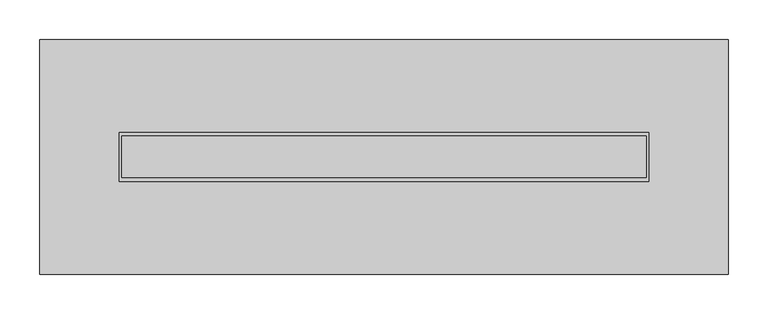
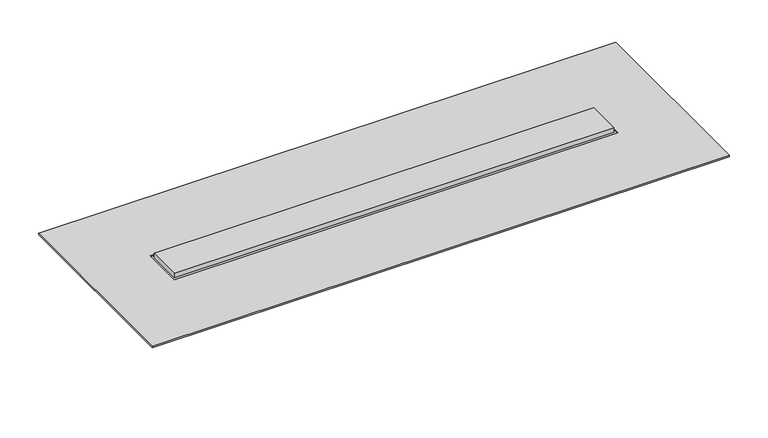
"""IFC4 building model written with IfcOpenShell, lengths in millimetres: sanitary terminal geometry, NLRS_PF_52_UN_Compact TAF Modulo_Easydrain : Compact TAF Modulo Glas wit glans."""

from ifc_helpers import new_model, si_unit, frame, origin, place, context, project, spatial, polyline, circle_curve, ellipse_curve, outline, extrude, source, transform, mapped, element, save
from ifc_brep_helpers import plane_surface, cylinder_surface, advanced_brep


def sanitary_terminal_1a364380(model_context):
    return source(origin(), model_context, "Body", "SolidModel", [
        extrude(outline(polyline([(429.5, 26.0), (429.5, -26.0), (-229.5, -26.0), (-229.5, 26.0), (429.5, 26.0)])), frame((0.0, 0.0, -7.0), z_axis=(0.0, 0.0, 1.0), x_axis=(1.0, 0.0, 0.0)), (0.0, 0.0, 1.0), 7.0),
        extrude(outline(polyline([(532.5, 147.5), (532.5, -147.5), (-332.5, -147.5), (-332.5, 147.5), (532.5, 147.5)]), holes=[polyline([(432.5, 31.0), (-232.5, 31.0), (-232.5, -31.0), (432.5, -31.0), (432.5, 31.0)])]), frame((0.0, 0.0, -8.0), z_axis=(0.0, 0.0, 1.0), x_axis=(1.0, 0.0, 0.0)), (0.0, 0.0, 1.0), 2.0),
        advanced_brep(
        [(-232.5, -31.0, -25.0), (-10.0, -31.0, -27.0), (-10.0, -31.0, -90.0), (210.0, -31.0, -90.0), (210.0, -31.0, -27.0), (432.5, -31.0, -25.0), (432.5, -31.0, -9.0), (-232.5, -31.0, -9.0), (100.0, -31.0, -30.0), (100.0, -31.0, -80.0), (432.5, 31.0, -25.0), (210.0, 31.0, -27.0), (210.0, 31.0, -90.0), (-10.0, 31.0, -90.0), (-10.0, 31.0, -27.0), (-232.5, 31.0, -25.0), (-232.5, 31.0, -9.0), (432.5, 31.0, -9.0), (-212.5, 0.0, -25.1797753), (-172.5, 0.0, -25.5393258), (432.5, 30.0, -9.0), (432.5, -30.0, -9.0), (450.0, 47.5, -7.0), (-250.0, 47.5, -7.0), (-250.0, -64.5, -7.0), (450.0, -64.5, -7.0), (-232.5, -30.0, -9.0), (-232.5, 30.0, -9.0), (372.5, 0.0, -25.5393258), (412.5, 0.0, -25.1797753), (100.0, -50.0, -30.0), (100.0, -50.0, -80.0), (450.0, 47.5, -9.0), (450.0, -64.5, -9.0), (-250.0, -64.5, -9.0), (-250.0, 47.5, -9.0), (-212.5, 0.0, -90.0), (-172.5, 0.0, -90.0), (372.5, 0.0, -90.0), (412.5, 0.0, -90.0)],
        [
            (0, 1),
            (1, 2),
            (2, 3),
            (3, 4),
            (4, 5),
            (5, 6),
            (6, 7),
            (7, 0),
            (8, 9, circle_curve(frame((100.0, -31.0, -55.0), z_axis=(0.0, 1.0, 0.0), x_axis=(0.0, 0.0, -1.0)), 25.0)),
            (9, 8, circle_curve(frame((100.0, -31.0, -55.0), z_axis=(0.0, 1.0, 0.0), x_axis=(0.0, 0.0, -1.0)), 25.0)),
            (10, 11),
            (11, 12),
            (12, 13),
            (13, 14),
            (14, 15),
            (15, 16),
            (16, 17),
            (17, 10),
            (0, 15),
            (14, 1),
            (18, 19, ellipse_curve(frame((-192.5, 0.0, -25.3595506), z_axis=(0.00898840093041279, 0.0, 0.9999596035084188), x_axis=(-0.9999596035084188, 0.0, 0.008988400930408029)), 20.000808, 20.0)),
            (19, 18, ellipse_curve(frame((-192.5, 0.0, -25.3595506), z_axis=(0.00898840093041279, 0.0, 0.9999596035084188), x_axis=(-0.9999596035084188, 0.0, 0.008988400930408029)), 20.000808, 20.0)),
            (5, 10),
            (17, 20),
            (20, 21),
            (21, 6),
            (22, 23),
            (23, 24),
            (24, 25),
            (25, 22),
            (7, 26),
            (26, 27),
            (27, 16),
            (13, 2),
            (12, 3),
            (11, 4),
            (28, 29, ellipse_curve(frame((392.5, 0.0, -25.3595506), z_axis=(-0.00898840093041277, 0.0, 0.9999596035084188), x_axis=(0.9999596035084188, 0.0, 0.00898840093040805)), 20.000808, 20.0)),
            (29, 28, ellipse_curve(frame((392.5, 0.0, -25.3595506), z_axis=(-0.00898840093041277, 0.0, 0.9999596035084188), x_axis=(0.9999596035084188, 0.0, 0.00898840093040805)), 20.000808, 20.0)),
            (30, 31, circle_curve(frame((100.0, -50.0, -55.0), z_axis=(0.0, -1.0, 0.0), x_axis=(0.0, 0.0, -1.0)), 25.0)),
            (31, 30, circle_curve(frame((100.0, -50.0, -55.0), z_axis=(0.0, -1.0, 0.0), x_axis=(0.0, 0.0, -1.0)), 25.0)),
            (31, 9),
            (8, 30),
            (32, 33),
            (33, 34),
            (34, 35),
            (35, 32),
            (22, 32),
            (35, 23),
            (34, 24),
            (33, 25),
            (36, 37, circle_curve(frame((-192.5, 0.0, -90.0), z_axis=(0.0, 0.0, -1.0), x_axis=(1.0, 0.0, 0.0)), 20.0)),
            (37, 36, circle_curve(frame((-192.5, 0.0, -90.0), z_axis=(0.0, 0.0, -1.0), x_axis=(1.0, 0.0, 0.0)), 20.0)),
            (38, 39, circle_curve(frame((392.5, 0.0, -90.0), z_axis=(0.0, 0.0, -1.0), x_axis=(1.0, 0.0, 0.0)), 20.0)),
            (39, 38, circle_curve(frame((392.5, 0.0, -90.0), z_axis=(0.0, 0.0, -1.0), x_axis=(1.0, 0.0, 0.0)), 20.0)),
            (37, 19),
            (18, 36),
            (39, 29),
            (28, 38),
        ],
        [
            plane_surface(frame((-232.5, -31.0, -25.0), z_axis=(0.0, -1.0, 0.0), x_axis=(0.9999596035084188, 0.0, -0.00898840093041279))),
            plane_surface(frame((-232.5, 31.0, -25.0), z_axis=(0.0, 1.0, 0.0), x_axis=(-0.9999596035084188, 0.0, 0.00898840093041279))),
            plane_surface(frame((-232.5, -31.0, -25.0), z_axis=(-0.00898840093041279, 0.0, -0.9999596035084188), x_axis=(0.0, 1.0, 0.0))),
            plane_surface(frame((432.5, -31.0, -25.0), z_axis=(1.0, 0.0, 0.0), x_axis=(0.0, 1.0, 0.0))),
            plane_surface(frame((432.5, -31.0, -7.0), z_axis=(0.0, 0.0, 1.0), x_axis=(0.0, 1.0, 0.0))),
            plane_surface(frame((-232.5, -31.0, -7.0), z_axis=(-1.0, 0.0, 0.0), x_axis=(0.0, 1.0, 0.0))),
            plane_surface(frame((-10.0, -31.0, -27.0), z_axis=(-1.0, 0.0, 0.0), x_axis=(0.0, 1.0, 0.0))),
            plane_surface(frame((-10.0, -31.0, -90.0), z_axis=(0.0, 0.0, -1.0), x_axis=(0.0, 1.0, 0.0))),
            plane_surface(frame((210.0, -31.0, -90.0), z_axis=(1.0, 0.0, 0.0), x_axis=(0.0, 1.0, 0.0))),
            plane_surface(frame((210.0, -31.0, -27.0), z_axis=(0.00898840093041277, 0.0, -0.9999596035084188), x_axis=(0.0, 1.0, 0.0))),
            plane_surface(frame((100.0, -50.0, -55.0), z_axis=(0.0, -1.0, 0.0), x_axis=(1.0, 0.0, 0.0))),
            cylinder_surface(frame((100.0, 0.0, -55.0), z_axis=(0.0, 1.0, 0.0), x_axis=(0.0, 0.0, -1.0)), 25.0),
            plane_surface(frame((432.5, 30.0, -9.0), z_axis=(0.0, 0.0, -1.0), x_axis=(0.0, 1.0, 0.0))),
            plane_surface(frame((450.0, 47.5, -7.0), z_axis=(0.0, 1.0, 0.0), x_axis=(0.0, 0.0, -1.0))),
            plane_surface(frame((-250.0, 47.5, -7.0), z_axis=(-1.0, 0.0, 0.0), x_axis=(0.0, 0.0, -1.0))),
            plane_surface(frame((-250.0, -64.5, -7.0), z_axis=(0.0, -1.0, 0.0), x_axis=(0.0, 0.0, -1.0))),
            plane_surface(frame((450.0, -64.5, -7.0), z_axis=(1.0, 0.0, 0.0), x_axis=(0.0, 0.0, -1.0))),
            plane_surface(frame((-172.5, 0.0, -90.0), z_axis=(0.0, 0.0, -1.0), x_axis=(0.0, -1.0, 0.0))),
            cylinder_surface(frame((-192.5, 0.0, -90.0), z_axis=(0.0, 0.0, 1.0), x_axis=(1.0, 0.0, 0.0)), 20.0),
            cylinder_surface(frame((392.5, 0.0, 0.0), z_axis=(0.0, 0.0, 1.0), x_axis=(1.0, 0.0, 0.0)), 20.0),
        ],
        [
            (0, [[1, 2, 3, 4, 5, 6, 7, 8], [9, 10]]),
            (1, [[11, 12, 13, 14, 15, 16, 17, 18]]),
            (2, [[-1, 19, -15, 20], [21, 22]]),
            (3, [[23, -18, 24, 25, 26, -6]]),
            (4, [[27, 28, 29, 30]]),
            (5, [[-19, -8, 31, 32, 33, -16]]),
            (6, [[-2, -20, -14, 34]]),
            (7, [[-3, -34, -13, 35]]),
            (8, [[-4, -35, -12, 36]]),
            (9, [[-5, -36, -11, -23], [37, 38]]),
            (10, [[39, 40]]),
            (11, [[-40, 41, -9, 42]]),
            (11, [[-39, -42, -10, -41]]),
            (12, [[43, 44, 45, 46], [-7, -26, -25, -24, -17, -33, -32, -31]]),
            (13, [[-27, 47, -46, 48]]),
            (14, [[-28, -48, -45, 49]]),
            (15, [[-29, -49, -44, 50]]),
            (16, [[-30, -50, -43, -47]]),
            (17, [[51, 52]]),
            (17, [[53, 54]]),
            (18, [[-52, 55, -21, 56]]),
            (18, [[-51, -56, -22, -55]]),
            (19, [[-54, 57, -37, 58]]),
            (19, [[-53, -58, -38, -57]]),
        ],
    ),
    ])


if __name__ == "__main__":
    model = new_model("IFC4")
    model_context = context("Model", 3, world=origin())
    ifc_project = project(units=[si_unit("LENGTHUNIT", "METRE", prefix="MILLI")], contexts=[model_context])
    site = spatial("IfcSite", under=ifc_project)
    building = spatial("IfcBuilding", under=site)
    placement = place(None, origin())
    sanitary_terminal_shape = sanitary_terminal_1a364380(model_context)
    element("IfcSanitaryTerminal", 1, ObjectType="NLRS_PF_52_UN_Compact TAF Modulo_Easydrain : Compact TAF Modulo Glas wit glans", at=placement, inside=building, context=model_context, shape_type="MappedRepresentation", body=[
        mapped(sanitary_terminal_shape, transform((0.0, 0.0, 0.0), x_axis=(1.0, 0.0, 0.0), y_axis=(0.0, 1.0, 0.0), z_axis=(0.0, 0.0, 1.0))),
    ])
    save(model, "model.ifc")
